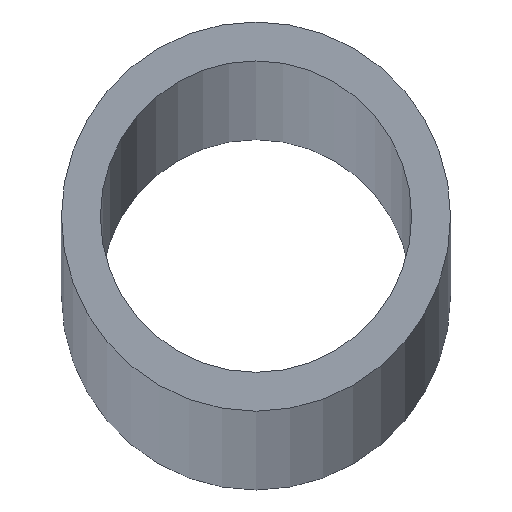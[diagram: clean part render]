
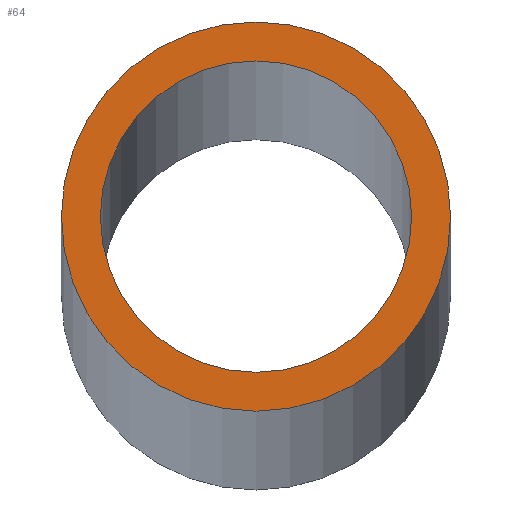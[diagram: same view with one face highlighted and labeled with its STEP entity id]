
A CAD part, top view. The second image highlights one B-rep face of the part: STEP entity #64.
In plain terms, the highlighted planar face has unit normal (0, 0, 1).
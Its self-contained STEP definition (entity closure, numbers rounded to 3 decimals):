
#22=FACE_BOUND('',#32,.T.);
#26=FACE_OUTER_BOUND('',#31,.T.);
#31=EDGE_LOOP('',(#57));
#32=EDGE_LOOP('',(#58));
#35=CIRCLE('',#92,20.);
#36=CIRCLE('',#94,25.);
#39=VERTEX_POINT('',#123);
#40=VERTEX_POINT('',#127);
#43=EDGE_CURVE('',#39,#39,#35,.T.);
#45=EDGE_CURVE('',#40,#40,#36,.T.);
#57=ORIENTED_EDGE('',*,*,#45,.T.);
#58=ORIENTED_EDGE('',*,*,#43,.T.);
#60=PLANE('',#95);
#64=ADVANCED_FACE('',(#26,#22),#60,.T.);
#92=AXIS2_PLACEMENT_3D('',#124,#106,#107);
#94=AXIS2_PLACEMENT_3D('',#128,#111,#112);
#95=AXIS2_PLACEMENT_3D('',#130,#114,#115);
#106=DIRECTION('center_axis',(0.,0.,-1.));
#107=DIRECTION('ref_axis',(-1.,0.,0.));
#111=DIRECTION('center_axis',(0.,0.,1.));
#112=DIRECTION('ref_axis',(1.,0.,0.));
#114=DIRECTION('center_axis',(0.,0.,1.));
#115=DIRECTION('ref_axis',(1.,0.,0.));
#123=CARTESIAN_POINT('',(20.,0.,2900.));
#124=CARTESIAN_POINT('Origin',(0.,0.,2900.));
#127=CARTESIAN_POINT('',(-25.,0.,2900.));
#128=CARTESIAN_POINT('Origin',(0.,0.,2900.));
#130=CARTESIAN_POINT('Origin',(0.,0.,2900.));
